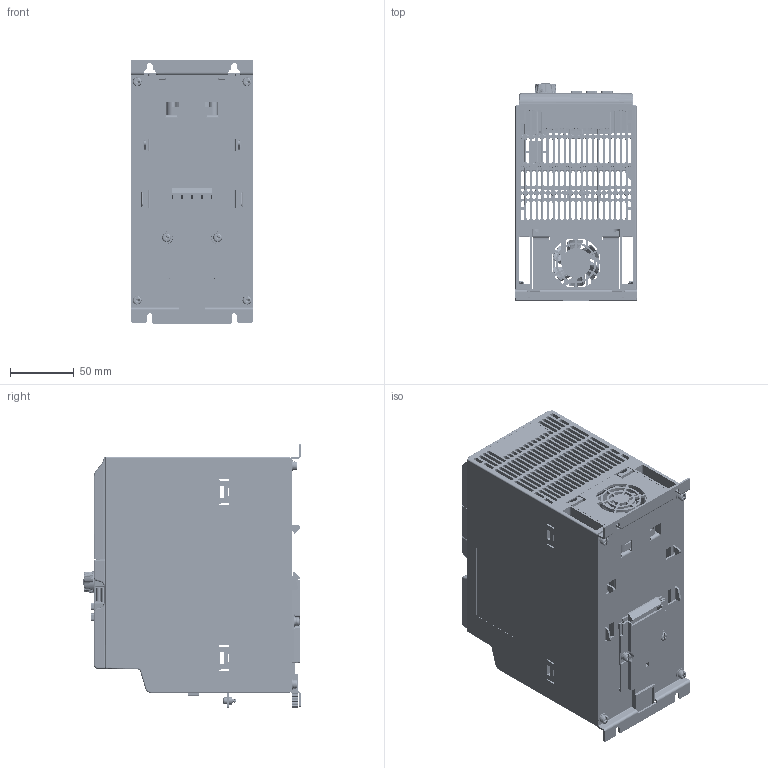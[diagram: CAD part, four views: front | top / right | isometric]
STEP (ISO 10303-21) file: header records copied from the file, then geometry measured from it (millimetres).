
FILE_DESCRIPTION((''),'2;1');
FILE_NAME('XFCX610_3PH_1_5_2_2KW_C_HOUSING','2018-06-25T12:20:04',('zhi2xi'),(''),'CREO PARAMETRIC BY PTC INC, 2017260','CREO PARAMETRIC BY PTC INC, 2017260','');
FILE_SCHEMA(('AUTOMOTIVE_DESIGN { 1 0 10303 214 1 1 1 1 }'));
Products named in the file (59): R912005577_1; R912005576_1; EFC5610_1K5_CASE_RE_1; MANIFOLD_SOLID_BREP_46507; MANIFOLD_SOLID_BREP_46693; MANIFOLD_SOLID_BREP_46879; MANIFOLD_SOLID_BREP_47081; MANIFOLD_SOLID_BREP_47283; MANIFOLD_SOLID_BREP_47485; MANIFOLD_SOLID_BREP_47687; C_DIBAN_1_ASM; D04G-24TH_1; MANIFOLD_SOLID_BREP_70613; MANIFOLD_SOLID_BREP_70870; MANIFOLD_SOLID_BREP_71127; MANIFOLD_SOLID_BREP_71384; MANIFOLD_SOLID_BREP_71641; MANIFOLD_SOLID_BREP_71898; MANIFOLD_SOLID_BREP_72155; MANIFOLD_SOLID_BREP_72412; MANIFOLD_SOLID_BREP_72669; GND_1_ASM; 01_DISPLAYCASE_1; DISPLAY_PCB1_1; R911329772_1; R911330025_1; LED_1; CONNECTOR2_1; CONNECTOR_TYCO-331_1; DISPLAY_PCB_ASM_1_ASM; BACK_CASE1_1; R911330333_FOLIE_1; BUUTTON_1; XUAN_NIU_1; LD_KCCT_M3X10_1; LABEL_15X50_1; 02-DISPLAY-CASE_ASM_1_ASM; PRT0010_1; PRT0031_1; ASM0003_ASM_1_ASM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
Assembly tree (71 placements, depth 6):
  XFCX610_3PH_1_5_2_2KW_C_HOUSING
    C_ASM
      00_C_ASM_1_ASM
        R912005577_1
        R912005576_1
        EFC5610_1K5_CASE_RE_1
        C_DIBAN_1_ASM
          MANIFOLD_SOLID_BREP_46507
          MANIFOLD_SOLID_BREP_46693
          MANIFOLD_SOLID_BREP_46879
          MANIFOLD_SOLID_BREP_47081
          MANIFOLD_SOLID_BREP_47283
          MANIFOLD_SOLID_BREP_47485
          MANIFOLD_SOLID_BREP_47687
        D04G-24TH_1
        GND_1_ASM
          MANIFOLD_SOLID_BREP_70613
          MANIFOLD_SOLID_BREP_70870
          MANIFOLD_SOLID_BREP_71127
          MANIFOLD_SOLID_BREP_71384
          MANIFOLD_SOLID_BREP_71641
          MANIFOLD_SOLID_BREP_71898
          MANIFOLD_SOLID_BREP_72155
          MANIFOLD_SOLID_BREP_72412
          MANIFOLD_SOLID_BREP_72669
        02-DISPLAY-CASE_ASM_1_ASM
          01_DISPLAYCASE_1
          DISPLAY_PCB_ASM_1_ASM
            DISPLAY_PCB1_1
            R911329772_1  x6
            R911330025_1
            LED_1
            CONNECTOR2_1
            CONNECTOR_TYCO-331_1
          BACK_CASE1_1
          R911330333_FOLIE_1
          BUUTTON_1
          XUAN_NIU_1
          LD_KCCT_M3X10_1  x2
          LABEL_15X50_1
        ASM0003_ASM_1_ASM
          PRT0010_1
          PRT0031_1
        LDZHJ_SZCYZT_M3X8_1  x2
        LDZHJ_SZCYZT_M4X10_1  x6
    01-IOCASE
      PL_EFC5610_IOCAE_CONVER
      LK_YCP06
        LK_YCP06-PLATINE
        CPU_CONNECTOR-14P
        CONNECTOR
        CONNECTOR_TYCO-331
        548190519
        CONNECT2-2
        2185-205SY3
        1155590000
      DB272710
      01-IOBACK_CASE
      LD_KCCT_M3X10  x2
Bounding box: 95 x 170.05 x 207.5 mm (x, y, z)
Volume: 550609.2 mm3; surface area: 541103.3 mm2
Topology: 62 solids, 68 shells, 10515 faces, 28232 edges, 18005 vertices
Faces by surface type: plane 6051, cylinder 2771, torus 616, bspline 612, cone 246, sphere 145, extrusion 74
Entity records: 422320 total; most frequent: CARTESIAN_POINT 97241, ORIENTED_EDGE 50676, DIRECTION 47192, EDGE_CURVE 25338, PRESENTATION_STYLE_ASSIGNMENT 23486, STYLED_ITEM 21314, CURVE_STYLE 21213, VECTOR 17382
